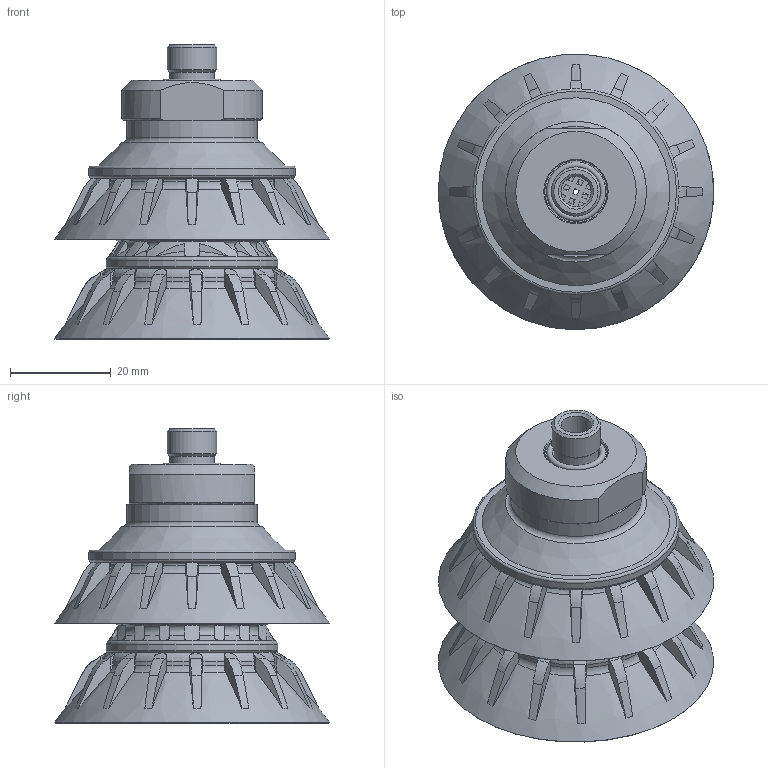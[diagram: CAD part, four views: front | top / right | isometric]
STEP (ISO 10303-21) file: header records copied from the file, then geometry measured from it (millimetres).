
FILE_DESCRIPTION( ( 'Unknown' ), '1' );
FILE_NAME( 'D:/夢嘐摹/嘐摹/B2.5 Magic Suction Cup/3D/B2.5-40-X55-S-A-18M.stp', 'Unknown', ( 'Unknown' ), ( 'Unknown' ), 'PSStep 10.0', 'Unknown', ' ' );
FILE_SCHEMA( ( 'AUTOMOTIVE_DESIGN { 1 0 10303 214 1 1 1 1 }' ) );
Length unit declared in the file: millimetre
Products named in the file (8): Assem1; B2.5-40-stopperA_20131004_0; B2.5-40-X55_0; B2.5-40-18M-F-RING_0; 15-繹蜂; 14M-oring_0; B2.5-40-18M_0; B2.5-40_0
Bounding box: 54.79 x 54.79 x 58.54 mm (x, y, z)
Volume: 38267.5 mm3; surface area: 46548.9 mm2
Topology: 14 solids, 14 shells, 1722 faces, 4752 edges, 3046 vertices
Faces by surface type: plane 724, cylinder 390, torus 304, cone 172, bspline 132
Full cylindrical faces by diameter (mm): 6 x2, 8.8 x2, 9.8 x2, 12.4 x2, 13 x4, 15 x4, 18 x4, 21 x4, 21.5 x4, 22 x2, 24 x2, 24.831 x2, 26 x2, 27.821 x2, 32 x2, 34.2 x2, 41 x4
Entity records: 41928 total; most frequent: CARTESIAN_POINT 15035, ORIENTED_EDGE 4528, DIRECTION 3426, EDGE_CURVE 2264, VERTEX_POINT 1513, AXIS2_PLACEMENT_3D 1291, EDGE_LOOP 1041, B_SPLINE_CURVE_WITH_KNOTS 932
